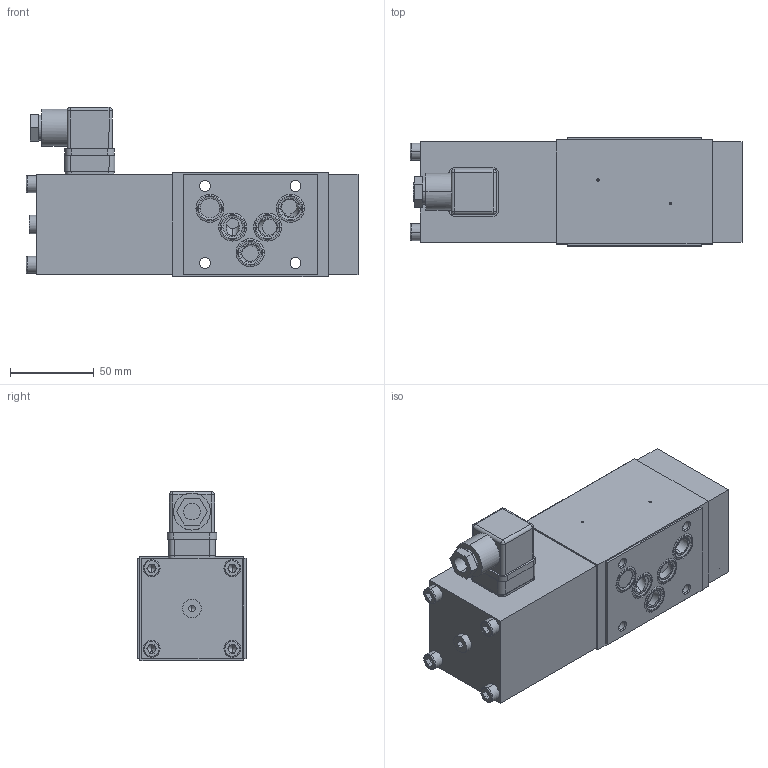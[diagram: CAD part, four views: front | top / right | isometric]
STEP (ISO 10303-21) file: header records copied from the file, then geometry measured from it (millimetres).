
FILE_DESCRIPTION (( 'STEP AP214' ), '1' );
FILE_NAME ('Z.22100B.STEP', '2017-03-08T09:07:17', ( '' ), ( '' ), 'SwSTEP 2.0', 'SolidWorks 2016', '' );
FILE_SCHEMA (( 'AUTOMOTIVE_DESIGN' ));
Length unit declared in the file: millimetre
Products named in the file (1): Z.22100B
Bounding box: 198 x 64.55 x 100.8 mm (x, y, z)
Volume: 738885.9 mm3; surface area: 115260.9 mm2
Topology: 24 solids, 30 shells, 896 faces, 2212 edges, 1408 vertices
Faces by surface type: plane 409, cylinder 303, bspline 86, cone 66, torus 32
Entity records: 38080 total; most frequent: CARTESIAN_POINT 6781, DIRECTION 4529, ORIENTED_EDGE 4364, EDGE_CURVE 2182, AXIS2_PLACEMENT_3D 1697, VERTEX_POINT 1408, VECTOR 1135, LINE 1135
